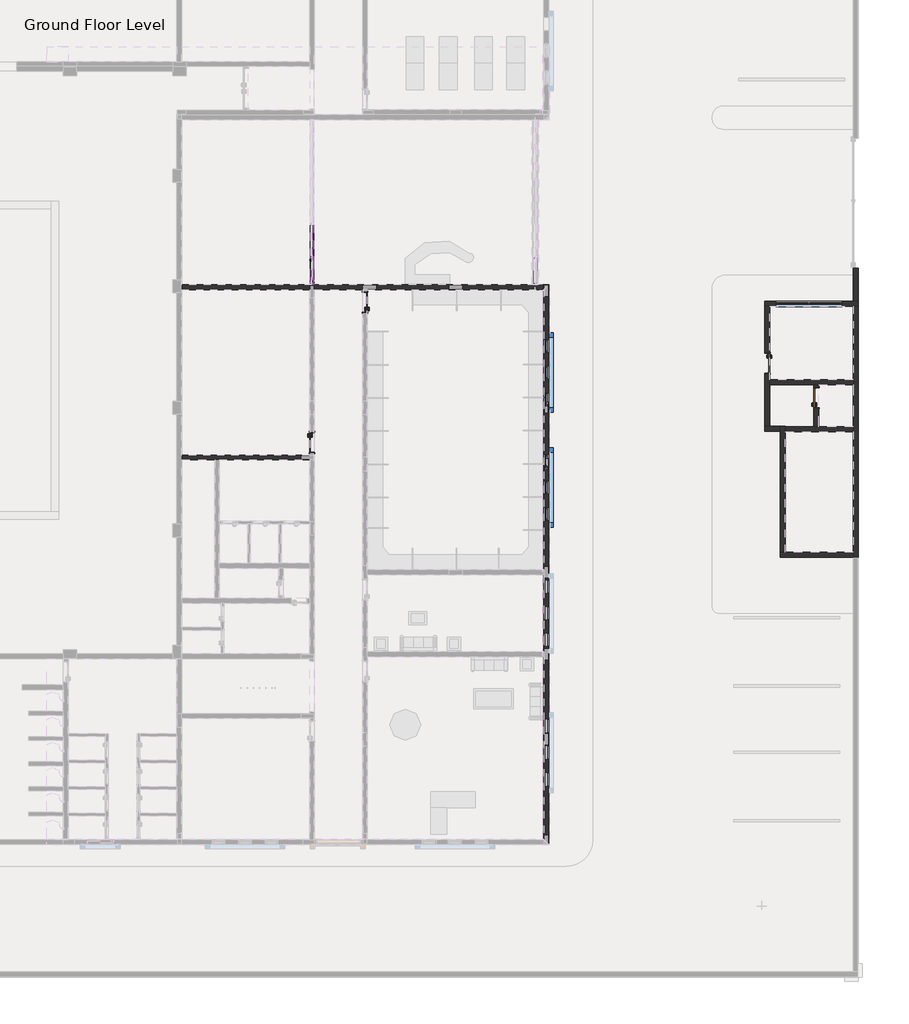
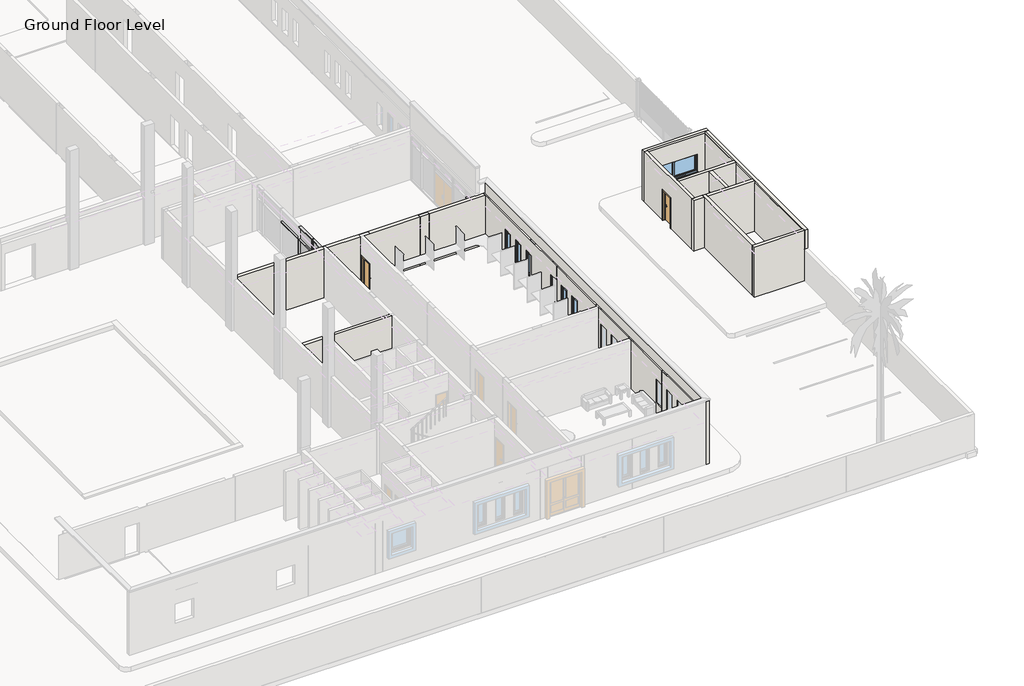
# One storey, part 5 of 23: 20 members, 13 walls, 9 windows, 6 doors, 4 plates.
"""IFC4 building model written with IfcOpenShell, lengths in millimetres."""

from ifc_helpers import new_model, si_unit, frame, origin, place, context, project, spatial, polyline, outline, extrude, faceted_brep, transform, mapped, element, save
from components import int_single_flush_nz_900_x_2100_2a598139, int_single_flush_nz_900_x_2100_021ef152, m_curtain_wall_sgl_glass_m_curtain_wall_sgl_glass_aad50b51, m_curtain_wall_sgl_glass_m_curtain_wall_sgl_glass_f4fa41e6, rectangular_mullion_50_x_150mm_79b53f25, rectangular_mullion_50_x_150mm_f0154c62, rectangular_mullion_50_x_150mm_3a148f0f, rectangular_mullion_50_x_150mm_5a145be0, rectangular_mullion_50_x_150mm_de483d99, rectangular_mullion_50_x_150mm_3a321350, rectangular_mullion_50_x_150mm_e54847f5, rectangular_mullion_50_x_150mm_792551fd, rectangular_mullion_50_x_150mm_23485ade, rectangular_mullion_50_x_150mm_35d6a770, rectangular_mullion_50_x_150mm_3ddb3363, rectangular_mullion_50_x_150mm_64d38db8, rectangular_mullion_50_x_150mm_641d0453, rectangular_mullion_50_x_150mm_e5f2d676, rectangular_mullion_50_x_150mm_4c046977, rectangular_mullion_50_x_150mm_5ce1b9ad, system_panel_glazed_c0405daf, system_panel_glazed_5c305629, system_panel_glazed_34c8777d, system_panel_glazed_a333d43b, awning_casement_double_w6_428bdf5d, window_batten_type_1_65f01d97, window_single_shutter_w3_b236610e

model = new_model("IFC4")

# Units and contexts
model_context = context("Model", 3, world=origin())
ifc_project = project(units=[si_unit("LENGTHUNIT", "METRE", prefix="MILLI")], contexts=[model_context])

# Site, building, storey
site = spatial("IfcSite", under=ifc_project)
building = spatial("IfcBuilding", under=site)
storey = spatial("IfcBuildingStorey", under=building, Name="Ground Floor Level", Elevation=900.0)

# Doors
placement = place(None, origin())
int_single_flush_nz_900_x_2100_shape = int_single_flush_nz_900_x_2100_2a598139(model_context)
element("IfcDoor", 1, ObjectType="Int Single-Flush (NZ) : 900 x 2100", at=placement, inside=storey, context=model_context, shape_type="MappedRepresentation", body=[
    mapped(int_single_flush_nz_900_x_2100_shape, transform((7752.7672395, -16758.7846466, 1000.0), x_axis=(0.0, 1.0, 0.0), y_axis=(-1.0, 0.0, 0.0), z_axis=(0.0, 0.0, 1.0))),
])
element("IfcDoor", 2, ObjectType="Int Single-Flush (NZ) : 900 x 2100", at=placement, inside=storey, context=model_context, shape_type="MappedRepresentation", body=[
    mapped(int_single_flush_nz_900_x_2100_shape, transform((5352.7672394, -23250.7846466, 1000.0), x_axis=(0.0, -1.0, 0.0), y_axis=(1.0, 0.0, 0.0), z_axis=(0.0, 0.0, 1.0))),
])
int_single_flush_nz_900_x_2100_2_shape = int_single_flush_nz_900_x_2100_021ef152(model_context)
element("IfcDoor", 3, ObjectType="Int Single-Flush (NZ) : 900 x 2100", at=placement, inside=storey, context=model_context, shape_type="MappedRepresentation", body=[
    mapped(int_single_flush_nz_900_x_2100_2_shape, transform((25952.7672395, -19670.7846454, 900.0), x_axis=(0.0, -1.0, 0.0), y_axis=(1.0, 0.0, 0.0), z_axis=(0.0, 0.0, 1.0))),
])
element("IfcDoor", 4, ObjectType="Int Single-Flush (NZ) : 900 x 2100", at=placement, inside=storey, context=model_context, shape_type="MappedRepresentation", body=[
    mapped(int_single_flush_nz_900_x_2100_2_shape, transform((28172.7672395, -21078.7846454, 900.0), x_axis=(0.0, 1.0, 0.0), y_axis=(-1.0, 0.0, 0.0), z_axis=(0.0, 0.0, 1.0))),
])
m_curtain_wall_sgl_glass_m_curtain_wall_sgl_glass_shape = m_curtain_wall_sgl_glass_m_curtain_wall_sgl_glass_aad50b51(model_context)
element("IfcDoor", 5, ObjectType="M_Curtain Wall Sgl Glass : M_Curtain Wall Sgl Glass", at=placement, inside=storey, context=model_context, shape_type="MappedRepresentation", body=[
    mapped(m_curtain_wall_sgl_glass_m_curtain_wall_sgl_glass_shape, transform((5352.7672395, -15919.7846466, 1050.0), x_axis=(0.0, -1.0, 0.0), y_axis=(1.0, 0.0, 0.0), z_axis=(0.0, 0.0, 1.0))),
])
m_curtain_wall_sgl_glass_m_curtain_wall_sgl_glass_2_shape = m_curtain_wall_sgl_glass_m_curtain_wall_sgl_glass_f4fa41e6(model_context)
element("IfcDoor", 6, ObjectType="M_Curtain Wall Sgl Glass : M_Curtain Wall Sgl Glass", at=placement, inside=storey, context=model_context, shape_type="MappedRepresentation", body=[
    mapped(m_curtain_wall_sgl_glass_m_curtain_wall_sgl_glass_2_shape, transform((5352.7672395, -15337.2846466, 1050.0), x_axis=(0.0, -1.0, 0.0), y_axis=(1.0, 0.0, 0.0), z_axis=(0.0, 0.0, 1.0))),
])

# Members
rectangular_mullion_50_x_150mm_shape = rectangular_mullion_50_x_150mm_79b53f25(model_context)
element("IfcMember", 7, ObjectType="Rectangular Mullion : 50 x 150mm", at=placement, inside=storey, context=model_context, shape_type="MappedRepresentation", body=[
    mapped(rectangular_mullion_50_x_150mm_shape, transform((5352.7672395, -14804.7846466, 1000.0), x_axis=(0.0, -1.0, 0.0), y_axis=(-1.0, 0.0, 0.0), z_axis=(0.0, 0.0, -1.0))),
])
element("IfcMember", 8, ObjectType="Rectangular Mullion : 50 x 150mm", at=placement, inside=storey, context=model_context, shape_type="MappedRepresentation", body=[
    mapped(rectangular_mullion_50_x_150mm_shape, transform((5352.7672395, -13304.7846466, 1000.0), x_axis=(0.0, -1.0, 0.0), y_axis=(-1.0, 0.0, 0.0), z_axis=(0.0, 0.0, -1.0))),
])
rectangular_mullion_50_x_150mm_2_shape = rectangular_mullion_50_x_150mm_f0154c62(model_context)
element("IfcMember", 9, ObjectType="Rectangular Mullion : 50 x 150mm", at=placement, inside=storey, context=model_context, shape_type="MappedRepresentation", body=[
    mapped(rectangular_mullion_50_x_150mm_2_shape, transform((5352.7672395, -14779.7846466, 3250.0), x_axis=(0.0, 0.0, 1.0), y_axis=(-1.0, 0.0, 0.0), z_axis=(0.0, -1.0, 0.0))),
])
rectangular_mullion_50_x_150mm_3_shape = rectangular_mullion_50_x_150mm_3a148f0f(model_context)
element("IfcMember", 10, ObjectType="Rectangular Mullion : 50 x 150mm", at=placement, inside=storey, context=model_context, shape_type="MappedRepresentation", body=[
    mapped(rectangular_mullion_50_x_150mm_3_shape, transform((5352.7672395, -13279.7846466, 3250.0), x_axis=(0.0, 0.0, 1.0), y_axis=(-1.0, 0.0, 0.0), z_axis=(0.0, -1.0, 0.0))),
])
rectangular_mullion_50_x_150mm_4_shape = rectangular_mullion_50_x_150mm_5a145be0(model_context)
element("IfcMember", 11, ObjectType="Rectangular Mullion : 50 x 150mm", at=placement, inside=storey, context=model_context, shape_type="MappedRepresentation", body=[
    mapped(rectangular_mullion_50_x_150mm_4_shape, transform((5352.7672395, -13329.7846466, 1000.0), x_axis=(0.0, 0.0, -1.0), y_axis=(-1.0, 0.0, 0.0), z_axis=(0.0, 1.0, 0.0))),
])
element("IfcMember", 12, ObjectType="Rectangular Mullion : 50 x 150mm", at=placement, inside=storey, context=model_context, shape_type="MappedRepresentation", body=[
    mapped(rectangular_mullion_50_x_150mm_4_shape, transform((5352.7672395, -14779.7846466, 4150.0), x_axis=(0.0, 0.0, 1.0), y_axis=(-1.0, 0.0, 0.0), z_axis=(0.0, -1.0, 0.0))),
])
rectangular_mullion_50_x_150mm_5_shape = rectangular_mullion_50_x_150mm_de483d99(model_context)
element("IfcMember", 13, ObjectType="Rectangular Mullion : 50 x 150mm", at=placement, inside=storey, context=model_context, shape_type="MappedRepresentation", body=[
    mapped(rectangular_mullion_50_x_150mm_5_shape, transform((5352.7672395, -16044.7846466, 1000.0), x_axis=(0.0, -1.0, 0.0), y_axis=(-1.0, 0.0, 0.0), z_axis=(0.0, 0.0, -1.0))),
])
rectangular_mullion_50_x_150mm_6_shape = rectangular_mullion_50_x_150mm_3a321350(model_context)
element("IfcMember", 14, ObjectType="Rectangular Mullion : 50 x 150mm", at=placement, inside=storey, context=model_context, shape_type="MappedRepresentation", body=[
    mapped(rectangular_mullion_50_x_150mm_6_shape, transform((15452.7672395, -16004.7846466, 4150.0), x_axis=(0.0, 0.0, 1.0), y_axis=(-1.0, 0.0, 0.0), z_axis=(0.0, -1.0, 0.0))),
])
rectangular_mullion_50_x_150mm_7_shape = rectangular_mullion_50_x_150mm_e54847f5(model_context)
element("IfcMember", 15, ObjectType="Rectangular Mullion : 50 x 150mm", at=placement, inside=storey, context=model_context, shape_type="MappedRepresentation", body=[
    mapped(rectangular_mullion_50_x_150mm_7_shape, transform((15452.7672395, -16004.7846466, 3550.0), x_axis=(0.0, 0.0, 1.0), y_axis=(-1.0, 0.0, 0.0), z_axis=(0.0, -1.0, 0.0))),
])
rectangular_mullion_50_x_150mm_8_shape = rectangular_mullion_50_x_150mm_792551fd(model_context)
element("IfcMember", 16, ObjectType="Rectangular Mullion : 50 x 150mm", at=placement, inside=storey, context=model_context, shape_type="MappedRepresentation", body=[
    mapped(rectangular_mullion_50_x_150mm_8_shape, transform((15452.7672395, -16054.7846466, 1000.0), x_axis=(0.0, -1.0, 0.0), y_axis=(-1.0, 0.0, 0.0), z_axis=(0.0, 0.0, -1.0))),
])
rectangular_mullion_50_x_150mm_9_shape = rectangular_mullion_50_x_150mm_23485ade(model_context)
element("IfcMember", 17, ObjectType="Rectangular Mullion : 50 x 150mm", at=placement, inside=storey, context=model_context, shape_type="MappedRepresentation", body=[
    mapped(rectangular_mullion_50_x_150mm_9_shape, transform((15452.7672395, -16054.7846466, 3200.0), x_axis=(0.0, -1.0, 0.0), y_axis=(-1.0, 0.0, 0.0), z_axis=(0.0, 0.0, -1.0))),
])
rectangular_mullion_50_x_150mm_10_shape = rectangular_mullion_50_x_150mm_35d6a770(model_context)
element("IfcMember", 18, ObjectType="Rectangular Mullion : 50 x 150mm", at=placement, inside=storey, context=model_context, shape_type="MappedRepresentation", body=[
    mapped(rectangular_mullion_50_x_150mm_10_shape, transform((5352.7672395, -16044.7846466, 3250.0), x_axis=(0.0, -1.0, 0.0), y_axis=(-1.0, 0.0, 0.0), z_axis=(0.0, 0.0, -1.0))),
])
rectangular_mullion_50_x_150mm_11_shape = rectangular_mullion_50_x_150mm_3ddb3363(model_context)
element("IfcMember", 19, ObjectType="Rectangular Mullion : 50 x 150mm", at=placement, inside=storey, context=model_context, shape_type="MappedRepresentation", body=[
    mapped(rectangular_mullion_50_x_150mm_11_shape, transform((5352.7672395, -14804.7846466, 3250.0), x_axis=(0.0, -1.0, 0.0), y_axis=(-1.0, 0.0, 0.0), z_axis=(0.0, 0.0, -1.0))),
])
rectangular_mullion_50_x_150mm_12_shape = rectangular_mullion_50_x_150mm_64d38db8(model_context)
element("IfcMember", 20, ObjectType="Rectangular Mullion : 50 x 150mm", at=placement, inside=storey, context=model_context, shape_type="MappedRepresentation", body=[
    mapped(rectangular_mullion_50_x_150mm_12_shape, transform((15452.7672395, -16054.7846466, 3550.0), x_axis=(0.0, -1.0, 0.0), y_axis=(-1.0, 0.0, 0.0), z_axis=(0.0, 0.0, -1.0))),
])
rectangular_mullion_50_x_150mm_13_shape = rectangular_mullion_50_x_150mm_641d0453(model_context)
element("IfcMember", 21, ObjectType="Rectangular Mullion : 50 x 150mm", at=placement, inside=storey, context=model_context, shape_type="MappedRepresentation", body=[
    mapped(rectangular_mullion_50_x_150mm_13_shape, transform((5352.7672395, -15844.7846466, 3250.0), x_axis=(0.0, 0.0, 1.0), y_axis=(-1.0, 0.0, 0.0), z_axis=(0.0, -1.0, 0.0))),
])
rectangular_mullion_50_x_150mm_14_shape = rectangular_mullion_50_x_150mm_e5f2d676(model_context)
element("IfcMember", 22, ObjectType="Rectangular Mullion : 50 x 150mm", at=placement, inside=storey, context=model_context, shape_type="MappedRepresentation", body=[
    mapped(rectangular_mullion_50_x_150mm_14_shape, transform((5352.7672395, -15994.7846466, 4150.0), x_axis=(0.0, 0.0, 1.0), y_axis=(-1.0, 0.0, 0.0), z_axis=(0.0, -1.0, 0.0))),
])
rectangular_mullion_50_x_150mm_15_shape = rectangular_mullion_50_x_150mm_4c046977(model_context)
element("IfcMember", 23, ObjectType="Rectangular Mullion : 50 x 150mm", at=placement, inside=storey, context=model_context, shape_type="MappedRepresentation", body=[
    mapped(rectangular_mullion_50_x_150mm_15_shape, transform((5352.7672395, -14829.7846466, 1000.0), x_axis=(0.0, 0.0, -1.0), y_axis=(-1.0, 0.0, 0.0), z_axis=(0.0, 1.0, 0.0))),
])
rectangular_mullion_50_x_150mm_16_shape = rectangular_mullion_50_x_150mm_5ce1b9ad(model_context)
element("IfcMember", 24, ObjectType="Rectangular Mullion : 50 x 150mm", at=placement, inside=storey, context=model_context, shape_type="MappedRepresentation", body=[
    mapped(rectangular_mullion_50_x_150mm_16_shape, transform((5352.7672395, -15994.7846466, 3250.0), x_axis=(0.0, 0.0, 1.0), y_axis=(-1.0, 0.0, 0.0), z_axis=(0.0, -1.0, 0.0))),
])
element("IfcMember", 25, ObjectType="Rectangular Mullion : 50 x 150mm", at=placement, inside=storey, context=model_context, shape_type="MappedRepresentation", body=[
    mapped(rectangular_mullion_50_x_150mm_15_shape, transform((5352.7672395, -15844.7846466, 4150.0), x_axis=(0.0, 0.0, 1.0), y_axis=(-1.0, 0.0, 0.0), z_axis=(0.0, -1.0, 0.0))),
])
element("IfcMember", 26, ObjectType="Rectangular Mullion : 50 x 150mm", at=placement, inside=storey, context=model_context, shape_type="MappedRepresentation", body=[
    mapped(rectangular_mullion_50_x_150mm_14_shape, transform((5352.7672395, -15844.7846466, 1000.0), x_axis=(0.0, 0.0, -1.0), y_axis=(-1.0, 0.0, 0.0), z_axis=(0.0, 1.0, 0.0))),
])

# Plates
system_panel_glazed_shape = system_panel_glazed_c0405daf(model_context)
element("IfcPlate", 27, ObjectType="System Panel : Glazed", at=placement, inside=storey, context=model_context, shape_type="MappedRepresentation", body=[
    mapped(system_panel_glazed_shape, transform((5352.7672395, -14054.7846466, 1050.0), x_axis=(0.0, -1.0, 0.0), y_axis=(1.0, 0.0, 0.0), z_axis=(0.0, 0.0, 1.0))),
])
system_panel_glazed_2_shape = system_panel_glazed_5c305629(model_context)
element("IfcPlate", 28, ObjectType="System Panel : Glazed", at=placement, inside=storey, context=model_context, shape_type="MappedRepresentation", body=[
    mapped(system_panel_glazed_2_shape, transform((5352.7672395, -14054.7846466, 3275.0), x_axis=(0.0, -1.0, 0.0), y_axis=(1.0, 0.0, 0.0), z_axis=(0.0, 0.0, 1.0))),
])
system_panel_glazed_3_shape = system_panel_glazed_34c8777d(model_context)
element("IfcPlate", 29, ObjectType="System Panel : Glazed", at=placement, inside=storey, context=model_context, shape_type="MappedRepresentation", body=[
    mapped(system_panel_glazed_3_shape, transform((5352.7672395, -15337.2846466, 3275.0), x_axis=(0.0, -1.0, 0.0), y_axis=(1.0, 0.0, 0.0), z_axis=(0.0, 0.0, 1.0))),
])
system_panel_glazed_4_shape = system_panel_glazed_a333d43b(model_context)
element("IfcPlate", 30, ObjectType="System Panel : Glazed", at=placement, inside=storey, context=model_context, shape_type="MappedRepresentation", body=[
    mapped(system_panel_glazed_4_shape, transform((5352.7672395, -15919.7846466, 3275.0), x_axis=(0.0, -1.0, 0.0), y_axis=(1.0, 0.0, 0.0), z_axis=(0.0, 0.0, 1.0))),
])

# Walls
element("IfcWall", 31, ObjectType="Exterior - Blockwork 200mm", at=placement, inside=storey, context=model_context, shape_type="Brep", body=[
    faceted_brep([(25842.7672395, -17014.7846454, 900.0), (26062.7672395, -17014.7846454, 900.0), (29842.7672395, -17014.7846454, 900.0), (30062.7672395, -17014.7846454, 900.0), (30062.7672395, -17014.7846454, 4400.0), (29852.7672395, -17014.7846454, 4400.0), (29852.7672395, -17014.7846454, 4270.0), (29842.7672395, -17014.7846454, 4270.0), (26062.7672395, -17014.7846454, 4270.0), (26052.7672395, -17014.7846454, 4270.0), (26052.7672395, -17014.7846454, 4400.0), (25842.7672395, -17014.7846454, 4400.0), (29342.7672395, -17014.7846454, 3000.0), (29342.7672395, -17014.7846454, 1800.0), (26342.7672395, -17014.7846454, 1800.0), (26342.7672395, -17014.7846454, 3000.0), (30062.7672395, -16794.7846454, 900.0), (25842.7672395, -16794.7846454, 900.0), (25842.7672395, -16794.7846454, 4400.0), (30062.7672395, -16794.7846454, 4400.0), (30062.7672395, -16794.7846454, 3100.0), (29342.7672395, -16794.7846454, 1800.0), (29342.7672395, -16794.7846454, 3000.0), (26342.7672395, -16794.7846454, 3000.0), (26342.7672395, -16794.7846454, 1800.0), (26052.7672395, -17004.7846454, 4400.0), (29852.7672395, -17004.7846454, 4400.0), (29852.7672395, -17004.7846454, 4270.0), (26052.7672395, -17004.7846454, 4270.0)], [[[0, 1, 2, 3, 4, 5, 6, 7, 8, 9, 10, 11], [12, 13, 14, 15]], [[16, 17, 18, 19, 20], [21, 22, 23, 24]], [[3, 2, 1, 0, 17, 16]], [[19, 18, 11, 10, 25, 26, 5, 4]], [[0, 11, 18, 17]], [[21, 13, 12, 22]], [[14, 24, 23, 15]], [[13, 21, 24, 14]], [[15, 23, 22, 12]], [[27, 28, 9, 8, 7, 6]], [[26, 27, 6, 5]], [[28, 25, 10, 9]], [[28, 27, 26, 25]], [[3, 16, 20, 19, 4]]]),
])
element("IfcWall", 32, ObjectType="Exterior - Blockwork 200mm", at=placement, inside=storey, context=model_context, shape_type="Brep", body=[
    faceted_brep([(30062.7672395, -28364.7846456, 900.0), (30062.7672395, -17014.7846454, 900.0), (30062.7672395, -17014.7846454, 4400.0), (30062.7672395, -28364.7846456, 4400.0), (29842.7672395, -17014.7846454, 900.0), (29842.7672395, -20344.7846454, 900.0), (29842.7672395, -20564.7846454, 900.0), (29842.7672395, -22464.7846454, 900.0), (29842.7672395, -22684.7846454, 900.0), (29842.7672395, -28144.7846456, 900.0), (29842.7672395, -28364.7846456, 900.0), (29842.7672395, -28364.7846456, 4400.0), (29842.7672395, -28154.7846456, 4400.0), (29842.7672395, -28154.7846456, 4270.0), (29842.7672395, -28144.7846456, 4270.0), (29842.7672395, -17014.7846454, 4270.0), (29852.7672395, -17014.7846454, 4400.0), (29852.7672395, -28154.7846456, 4400.0), (29852.7672395, -28154.7846456, 4270.0), (29852.7672395, -17014.7846454, 4270.0)], [[[0, 1, 2, 3]], [[4, 5, 6, 7, 8, 9, 10, 11, 12, 13, 14, 15]], [[1, 0, 10, 9, 8, 7, 6, 5, 4]], [[3, 2, 16, 17, 12, 11]], [[13, 18, 19, 15, 14]], [[18, 17, 16, 19]], [[17, 18, 13, 12]], [[3, 11, 10, 0]], [[1, 4, 15, 19, 16, 2]]]),
])
element("IfcWall", 33, ObjectType="Exterior - Blockwork 200mm", at=placement, inside=storey, context=model_context, shape_type="Brep", body=[
    faceted_brep([(29842.7672395, -28144.7846456, 900.0), (26762.7672394, -28144.7846456, 900.0), (26542.7672394, -28144.7846456, 900.0), (26542.7672394, -28144.7846456, 4400.0), (26752.7672394, -28144.7846456, 4400.0), (26752.7672394, -28144.7846456, 4270.0), (29842.7672395, -28144.7846456, 4270.0), (26542.7672394, -28364.7846456, 900.0), (29842.7672395, -28364.7846456, 900.0), (29842.7672395, -28364.7846456, 4400.0), (26542.7672394, -28364.7846456, 4400.0), (29842.7672395, -28154.7846456, 4400.0), (26752.7672394, -28154.7846456, 4400.0), (26752.7672394, -28154.7846456, 4270.0), (29842.7672395, -28154.7846456, 4270.0)], [[[0, 1, 2, 3, 4, 5, 6]], [[7, 8, 9, 10]], [[2, 1, 0, 8, 7]], [[10, 9, 11, 12, 4, 3]], [[3, 2, 7, 10]], [[5, 13, 14, 6]], [[13, 12, 11, 14]], [[12, 13, 5, 4]], [[8, 0, 6, 14, 11, 9]]]),
])
element("IfcWall", 34, ObjectType="Exterior - Blockwork 200mm", at=placement, inside=storey, context=model_context, shape_type="Brep", body=[
    faceted_brep([(26762.7672394, -28144.7846456, 900.0), (26762.7672394, -22684.7846454, 900.0), (26762.7672394, -22464.7846454, 900.0), (26762.7672394, -22444.7846454, 900.0), (26762.7672394, -22444.7846454, 4270.0), (26762.7672394, -28144.7846456, 4270.0), (26542.7672394, -22444.7846454, 900.0), (26542.7672394, -22664.7846454, 900.0), (26542.7672394, -28144.7846456, 900.0), (26542.7672394, -28144.7846456, 4400.0), (26542.7672394, -22664.7846454, 4400.0), (26542.7672394, -22454.7846454, 4400.0), (26542.7672394, -22454.7846454, 4270.0), (26542.7672394, -22444.7846454, 4270.0), (26752.7672394, -28144.7846456, 4400.0), (26752.7672394, -22454.7846454, 4400.0), (26752.7672394, -28144.7846456, 4270.0), (26752.7672394, -22454.7846454, 4270.0)], [[[0, 1, 2, 3, 4, 5]], [[6, 7, 8, 9, 10, 11, 12, 13]], [[3, 2, 1, 0, 8, 7, 6]], [[11, 10, 9, 14, 15]], [[9, 8, 0, 5, 16, 14]], [[3, 6, 13, 4]], [[12, 17, 16, 5, 4, 13]], [[17, 15, 14, 16]], [[15, 17, 12, 11]]]),
])
element("IfcWall", 35, ObjectType="Exterior - Blockwork 200mm", at=placement, inside=storey, context=model_context, shape_type="Brep", body=[
    faceted_brep([(26542.7672394, -22444.7846454, 900.0), (26062.7672395, -22444.7846454, 900.0), (25842.7672395, -22444.7846454, 900.0), (25842.7672395, -22444.7846454, 4400.0), (26052.7672395, -22444.7846454, 4400.0), (26052.7672395, -22444.7846454, 4270.0), (26062.7672395, -22444.7846454, 4270.0), (26542.7672394, -22444.7846454, 4270.0), (25842.7672395, -22664.7846454, 900.0), (26542.7672394, -22664.7846454, 900.0), (26542.7672394, -22664.7846454, 4400.0), (25842.7672395, -22664.7846454, 4400.0), (26542.7672394, -22454.7846454, 4400.0), (26052.7672395, -22454.7846454, 4400.0), (26542.7672394, -22454.7846454, 4270.0), (26052.7672395, -22454.7846454, 4270.0)], [[[0, 1, 2, 3, 4, 5, 6, 7]], [[8, 9, 10, 11]], [[2, 1, 0, 9, 8]], [[11, 10, 12, 13, 4, 3]], [[10, 9, 0, 7, 14, 12]], [[3, 2, 8, 11]], [[5, 15, 14, 7, 6]], [[15, 13, 12, 14]], [[13, 15, 5, 4]]]),
])
element("IfcWall", 36, ObjectType="Exterior - Blockwork 200mm", at=placement, inside=storey, context=model_context, shape_type="Brep", body=[
    faceted_brep([(26062.7672395, -22444.7846454, 900.0), (26062.7672395, -20564.7846454, 900.0), (26062.7672395, -20344.7846454, 900.0), (26062.7672395, -20064.7846454, 900.0), (26062.7672395, -20064.7846454, 3019.0), (26062.7672395, -19126.7846454, 3019.0), (26062.7672395, -19126.7846454, 900.0), (26062.7672395, -17014.7846454, 900.0), (26062.7672395, -17014.7846454, 4270.0), (26062.7672395, -22444.7846454, 4270.0), (25842.7672395, -22444.7846454, 4400.0), (25842.7672395, -17014.7846454, 4400.0), (25842.7672395, -17014.7846454, 900.0), (25842.7672395, -19126.7846454, 900.0), (25842.7672395, -19126.7846454, 3019.0), (25842.7672395, -20064.7846454, 3019.0), (25842.7672395, -20064.7846454, 900.0), (25842.7672395, -22444.7846454, 900.0), (26052.7672395, -22444.7846454, 4400.0), (26052.7672395, -17014.7846454, 4400.0), (26052.7672395, -17014.7846454, 4270.0), (26052.7672395, -22444.7846454, 4270.0)], [[[0, 1, 2, 3, 4, 5, 6, 7, 8, 9]], [[10, 11, 12, 13, 14, 15, 16, 17]], [[0, 17, 16, 3, 2, 1]], [[12, 7, 6, 13]], [[11, 10, 18, 19]], [[7, 12, 11, 19, 20, 8]], [[10, 17, 0, 9, 21, 18]], [[20, 21, 9, 8]], [[21, 20, 19, 18]], [[15, 4, 3, 16]], [[4, 15, 14, 5]], [[5, 14, 13, 6]]]),
])
element("IfcWall", 37, ObjectType="Exterior - Blockwork 200mm", at=placement, inside=storey, context=model_context, shape_type="Brep", body=[
    faceted_brep([(15843.0482736, -41364.7846466, 5302.8002678), (15843.0482736, -41144.7846466, 5302.8002678), (15843.0482736, -16264.7846466, 5302.8002678), (15843.0482736, -16264.7846466, 4550.0), (15843.0482736, -41144.7846466, 4550.0), (15843.0482736, -41354.7846466, 4550.0), (15843.0482736, -41354.7846466, 4400.0), (15843.0482736, -41144.7846466, 4400.0), (15843.0482736, -32864.7846466, 4400.0), (15843.0482736, -32644.7846466, 4400.0), (15843.0482736, -29164.7846466, 4400.0), (15843.0482736, -28944.7846466, 4400.0), (15843.0482736, -16264.7846466, 4400.0), (15843.0482736, -16044.7846466, 4400.0), (15843.0482736, -16044.7846466, 900.0), (15843.0482736, -16254.7846466, 900.0), (15843.0482736, -16254.7846466, 1000.0), (15843.0482736, -16264.7846466, 1000.0), (15843.0482736, -28944.7846466, 1000.0), (15843.0482736, -28954.7846466, 1000.0), (15843.0482736, -28954.7846466, 900.0), (15843.0482736, -29154.7846466, 900.0), (15843.0482736, -29154.7846466, 1000.0), (15843.0482736, -29164.7846466, 1000.0), (15843.0482736, -32644.7846466, 1000.0), (15843.0482736, -32654.7846466, 1000.0), (15843.0482736, -32654.7846466, 900.0), (15843.0482736, -32854.7846466, 900.0), (15843.0482736, -32854.7846466, 1000.0), (15843.0482736, -32864.7846466, 1000.0), (15843.0482736, -41144.7846466, 1000.0), (15843.0482736, -41154.7846466, 1000.0), (15843.0482736, -41154.7846466, 900.0), (15843.0482736, -41364.7846466, 900.0), (15843.0482736, -18515.3475065, 1800.0), (15843.0482736, -18515.3475065, 3400.0), (15843.0482736, -19115.3475065, 3400.0), (15843.0482736, -19115.3475065, 1800.0), (15843.0482736, -19715.3475065, 1800.0), (15843.0482736, -19715.3475065, 3400.0), (15843.0482736, -20315.3475065, 3400.0), (15843.0482736, -20315.3475065, 1800.0), (15843.0482736, -20915.3475065, 1800.0), (15843.0482736, -20915.3475065, 3400.0), (15843.0482736, -21515.3475065, 3400.0), (15843.0482736, -21515.3475065, 1800.0), (15843.0482736, -23714.2217868, 1800.0), (15843.0482736, -23714.2217868, 3400.0), (15843.0482736, -24314.2217868, 3400.0), (15843.0482736, -24314.2217868, 1800.0), (15843.0482736, -24914.2217867, 1800.0), (15843.0482736, -24914.2217867, 3400.0), (15843.0482736, -25514.2217867, 3400.0), (15843.0482736, -25514.2217867, 1800.0), (15843.0482736, -26114.2217867, 1800.0), (15843.0482736, -26114.2217867, 3400.0), (15843.0482736, -26714.2217867, 3400.0), (15843.0482736, -26714.2217867, 1800.0), (15843.0482736, -29404.7846466, 1800.0), (15843.0482736, -29404.7846466, 3400.0), (15843.0482736, -30004.7846466, 3400.0), (15843.0482736, -30004.7846466, 1800.0), (15843.0482736, -30604.7846466, 1800.0), (15843.0482736, -30604.7846466, 3400.0), (15843.0482736, -31204.7846466, 3400.0), (15843.0482736, -31204.7846466, 1800.0), (15843.0482736, -31804.7846466, 1800.0), (15843.0482736, -31804.7846466, 3400.0), (15843.0482736, -32404.7846466, 3400.0), (15843.0482736, -32404.7846466, 1800.0), (15843.0482736, -35704.7846466, 1800.0), (15843.0482736, -35704.7846466, 3400.0), (15843.0482736, -36304.7846466, 3400.0), (15843.0482736, -36304.7846466, 1800.0), (15843.0482736, -36904.7846466, 1800.0), (15843.0482736, -36904.7846466, 3400.0), (15843.0482736, -37504.7846466, 3400.0), (15843.0482736, -37504.7846466, 1800.0), (15843.0482736, -38124.7846466, 1800.0), (15843.0482736, -38124.7846466, 3400.0), (15843.0482736, -38724.7846466, 3400.0), (15843.0482736, -38724.7846466, 1800.0), (16063.0482736, -41364.7846466, 900.0), (16063.0482736, -16044.7846466, 900.0), (16063.0482736, -16044.7846466, 4400.0), (16063.0482736, -16264.7846466, 4400.0), (16063.0482736, -16264.7846466, 5302.8002678), (16063.0482736, -41364.7846466, 5302.8002678), (16063.0482736, -18515.3475065, 3400.0), (16063.0482736, -18515.3475065, 1800.0), (16063.0482736, -19115.3475065, 1800.0), (16063.0482736, -19115.3475065, 3400.0), (16063.0482736, -19715.3475065, 3400.0), (16063.0482736, -19715.3475065, 1800.0), (16063.0482736, -20315.3475065, 1800.0), (16063.0482736, -20315.3475065, 3400.0), (16063.0482736, -20915.3475065, 3400.0), (16063.0482736, -20915.3475065, 1800.0), (16063.0482736, -21515.3475065, 1800.0), (16063.0482736, -21515.3475065, 3400.0), (16063.0482736, -23714.2217868, 3400.0), (16063.0482736, -23714.2217868, 1800.0), (16063.0482736, -24314.2217868, 1800.0), (16063.0482736, -24314.2217868, 3400.0), (16063.0482736, -24914.2217867, 3400.0), (16063.0482736, -24914.2217867, 1800.0), (16063.0482736, -25514.2217867, 1800.0), (16063.0482736, -25514.2217867, 3400.0), (16063.0482736, -26114.2217867, 3400.0), (16063.0482736, -26114.2217867, 1800.0), (16063.0482736, -26714.2217867, 1800.0), (16063.0482736, -26714.2217867, 3400.0), (16063.0482736, -29404.7846466, 3400.0), (16063.0482736, -29404.7846466, 1800.0), (16063.0482736, -30004.7846466, 1800.0), (16063.0482736, -30004.7846466, 3400.0), (16063.0482736, -30604.7846466, 3400.0), (16063.0482736, -30604.7846466, 1800.0), (16063.0482736, -31204.7846466, 1800.0), (16063.0482736, -31204.7846466, 3400.0), (16063.0482736, -31804.7846466, 3400.0), (16063.0482736, -31804.7846466, 1800.0), (16063.0482736, -32404.7846466, 1800.0), (16063.0482736, -32404.7846466, 3400.0), (16063.0482736, -35704.7846466, 3400.0), (16063.0482736, -35704.7846466, 1800.0), (16063.0482736, -36304.7846466, 1800.0), (16063.0482736, -36304.7846466, 3400.0), (16063.0482736, -36904.7846466, 3400.0), (16063.0482736, -36904.7846466, 1800.0), (16063.0482736, -37504.7846466, 1800.0), (16063.0482736, -37504.7846466, 3400.0), (16063.0482736, -38124.7846466, 3400.0), (16063.0482736, -38124.7846466, 1800.0), (16063.0482736, -38724.7846466, 1800.0), (16063.0482736, -38724.7846466, 3400.0), (16052.7672395, -16554.7846466, 4400.0), (16052.7672395, -16554.7846466, 900.0), (15853.0482736, -16554.7846466, 900.0), (15853.0482736, -16554.7846466, 1000.0), (15852.7672395, -16554.7846466, 1000.0), (15852.7672395, -16554.7846466, 4400.0), (15852.7672395, -16054.7846466, 900.0), (15852.7672395, -16054.7846466, 4400.0), (15852.7672395, -16254.7846466, 1000.0), (15852.7672395, -16254.7846466, 900.0), (16052.7672395, -21854.7846466, 4400.0), (16052.7672395, -21854.7846466, 900.0), (15853.0482736, -21854.7846466, 900.0), (15853.0482736, -21854.7846466, 1000.0), (15852.7672395, -21854.7846466, 1000.0), (15852.7672395, -21854.7846466, 4400.0), (15852.7672395, -21354.7846466, 3400.0), (15852.7672395, -21354.7846466, 4400.0), (15852.7672395, -21354.7846466, 1000.0), (15852.7672395, -21354.7846466, 1800.0), (15852.7672395, -21515.3475065, 1800.0), (15852.7672395, -21515.3475065, 3400.0), (16052.7672395, -21354.7846466, 3400.0), (16052.7672395, -21354.7846466, 4400.0), (16052.7672395, -21354.7846466, 1800.0), (15853.0482736, -21354.7846466, 1000.0), (15853.0482736, -21354.7846466, 900.0), (16052.7672395, -21354.7846466, 900.0), (16052.7672395, -24404.2217867, 4400.0), (16052.7672395, -24404.2217867, 900.0), (15853.0482736, -24404.2217867, 900.0), (15853.0482736, -24404.2217867, 1000.0), (15852.7672395, -24404.2217867, 1000.0), (15852.7672395, -24404.2217867, 4400.0), (15852.7672395, -23904.2217867, 3400.0), (15852.7672395, -23904.2217867, 4400.0), (15852.7672395, -23904.2217867, 1000.0), (15852.7672395, -23904.2217867, 1800.0), (15852.7672395, -24314.2217868, 1800.0), (15852.7672395, -24314.2217868, 3400.0), (16052.7672395, -23904.2217867, 3400.0), (16052.7672395, -23904.2217867, 4400.0), (16052.7672395, -23904.2217867, 1800.0), (15853.0482736, -23904.2217867, 1000.0), (15853.0482736, -23904.2217867, 900.0), (16052.7672395, -23904.2217867, 900.0), (16052.7672395, -29304.7846466, 4400.0), (16052.7672395, -29304.7846466, 900.0), (15853.0482736, -29304.7846466, 900.0), (15853.0482736, -29304.7846466, 1000.0), (15852.7672395, -29304.7846466, 1000.0), (15852.7672395, -29304.7846466, 4400.0), (15852.7672395, -28804.7846466, 4400.0), (15852.7672395, -29154.7846466, 1000.0), (15852.7672395, -29154.7846466, 900.0), (15852.7672395, -28954.7846466, 900.0), (15852.7672395, -28954.7846466, 1000.0), (15852.7672395, -28804.7846466, 1000.0), (16052.7672395, -28804.7846466, 900.0), (16052.7672395, -28804.7846466, 4400.0), (15853.0482736, -28804.7846466, 1000.0), (15853.0482736, -28804.7846466, 900.0), (16052.7672395, -33004.7846466, 4400.0), (16052.7672395, -33004.7846466, 900.0), (15853.0482736, -33004.7846466, 900.0), (15853.0482736, -33004.7846466, 1000.0), (15852.7672395, -33004.7846466, 1000.0), (15852.7672395, -33004.7846466, 4400.0), (15852.7672395, -32504.7846466, 4400.0), (15852.7672395, -32854.7846466, 1000.0), (15852.7672395, -32854.7846466, 900.0), (15852.7672395, -32654.7846466, 900.0), (15852.7672395, -32654.7846466, 1000.0), (15852.7672395, -32504.7846466, 1000.0), (16052.7672395, -32504.7846466, 900.0), (16052.7672395, -32504.7846466, 4400.0), (15853.0482736, -32504.7846466, 1000.0), (15853.0482736, -32504.7846466, 900.0), (16052.7672395, -36854.7846466, 4400.0), (16052.7672395, -36854.7846466, 900.0), (15853.0482736, -36854.7846466, 900.0), (15853.0482736, -36854.7846466, 1000.0), (15852.7672395, -36854.7846466, 1000.0), (15852.7672395, -36854.7846466, 4400.0), (15852.7672395, -36354.7846466, 4400.0), (15852.7672395, -36354.7846466, 1000.0), (16052.7672395, -36354.7846466, 900.0), (16052.7672395, -36354.7846466, 4400.0), (15853.0482736, -36354.7846466, 1000.0), (15853.0482736, -36354.7846466, 900.0), (15852.7672395, -41354.7846466, 4400.0), (15852.7672395, -41354.7846466, 900.0), (15852.7672395, -41154.7846466, 900.0), (15852.7672395, -41154.7846466, 1000.0), (15852.7672395, -40954.7846466, 1000.0), (15852.7672395, -40954.7846466, 4400.0), (16052.7672395, -40954.7846466, 900.0), (16052.7672395, -40954.7846466, 4400.0), (15853.0482736, -40954.7846466, 1000.0), (15853.0482736, -40954.7846466, 900.0), (16052.7672395, -16054.7846466, 4400.0), (16052.7672395, -16054.7846466, 900.0), (16052.7672395, -21515.3475065, 3400.0), (16052.7672395, -21515.3475065, 1800.0), (16052.7672395, -24314.2217868, 3400.0), (16052.7672395, -24314.2217868, 1800.0), (16052.7672395, -41354.7846466, 900.0), (16052.7672395, -41354.7846466, 4400.0), (16053.0482736, -41354.7846466, 4550.0), (16053.0482736, -41354.7846466, 4400.0), (16053.0482736, -16264.7846466, 4550.0), (16053.0482736, -16264.7846466, 4400.0)], [[[0, 1, 2, 3, 4, 5, 6, 7, 8, 9, 10, 11, 12, 13, 14, 15, 16, 17, 18, 19, 20, 21, 22, 23, 24, 25, 26, 27, 28, 29, 30, 31, 32, 33], [34, 35, 36, 37], [38, 39, 40, 41], [42, 43, 44, 45], [46, 47, 48, 49], [50, 51, 52, 53], [54, 55, 56, 57], [58, 59, 60, 61], [62, 63, 64, 65], [66, 67, 68, 69], [70, 71, 72, 73], [74, 75, 76, 77], [78, 79, 80, 81]], [[82, 83, 84, 85, 86, 87], [88, 89, 90, 91], [92, 93, 94, 95], [96, 97, 98, 99], [100, 101, 102, 103], [104, 105, 106, 107], [108, 109, 110, 111], [112, 113, 114, 115], [116, 117, 118, 119], [120, 121, 122, 123], [124, 125, 126, 127], [128, 129, 130, 131], [132, 133, 134, 135]], [[0, 33, 82, 87]], [[136, 137, 138, 139, 140, 141]], [[142, 143, 141, 140, 144, 145]], [[146, 147, 148, 149, 150, 151]], [[152, 153, 151, 150, 154, 155, 156, 157]], [[153, 152, 158, 159]], [[160, 155, 154, 161, 162, 163]], [[164, 165, 166, 167, 168, 169]], [[170, 171, 169, 168, 172, 173, 174, 175]], [[171, 170, 176, 177]], [[178, 173, 172, 179, 180, 181]], [[182, 183, 184, 185, 186, 187]], [[188, 187, 186, 189, 190, 191, 192, 193]], [[194, 195, 188, 193, 196, 197]], [[198, 199, 200, 201, 202, 203]], [[204, 203, 202, 205, 206, 207, 208, 209]], [[210, 211, 204, 209, 212, 213]], [[214, 215, 216, 217, 218, 219]], [[220, 219, 218, 221]], [[222, 223, 220, 221, 224, 225]], [[226, 227, 228, 229, 230, 231]], [[232, 233, 231, 230, 234, 235]], [[137, 136, 236, 237]], [[159, 158, 238, 239, 160, 163, 147, 146]], [[177, 176, 240, 241, 178, 181, 165, 164]], [[195, 194, 183, 182]], [[211, 210, 199, 198]], [[223, 222, 215, 214]], [[233, 232, 242, 243]], [[243, 242, 227, 226, 6, 5, 244, 245]], [[35, 34, 89, 88]], [[36, 35, 88, 91]], [[37, 36, 91, 90]], [[34, 37, 90, 89]], [[39, 38, 93, 92]], [[40, 39, 92, 95]], [[41, 40, 95, 94]], [[38, 41, 94, 93]], [[43, 42, 97, 96]], [[44, 43, 96, 99, 238, 158, 152, 157]], [[45, 44, 157, 156]], [[99, 98, 239, 238]], [[42, 45, 156, 155, 160, 239, 98, 97]], [[47, 46, 101, 100]], [[48, 47, 100, 103, 240, 176, 170, 175]], [[49, 48, 175, 174]], [[103, 102, 241, 240]], [[46, 49, 174, 173, 178, 241, 102, 101]], [[51, 50, 105, 104]], [[52, 51, 104, 107]], [[53, 52, 107, 106]], [[50, 53, 106, 105]], [[55, 54, 109, 108]], [[56, 55, 108, 111]], [[57, 56, 111, 110]], [[54, 57, 110, 109]], [[59, 58, 113, 112]], [[60, 59, 112, 115]], [[61, 60, 115, 114]], [[58, 61, 114, 113]], [[63, 62, 117, 116]], [[64, 63, 116, 119]], [[65, 64, 119, 118]], [[62, 65, 118, 117]], [[67, 66, 121, 120]], [[68, 67, 120, 123]], [[69, 68, 123, 122]], [[66, 69, 122, 121]], [[71, 70, 125, 124]], [[72, 71, 124, 127]], [[73, 72, 127, 126]], [[70, 73, 126, 125]], [[75, 74, 129, 128]], [[76, 75, 128, 131]], [[77, 76, 131, 130]], [[74, 77, 130, 129]], [[79, 78, 133, 132]], [[80, 79, 132, 135]], [[81, 80, 135, 134]], [[78, 81, 134, 133]], [[244, 5, 4, 3, 246]], [[245, 244, 246, 247]], [[14, 13, 84, 83]], [[86, 85, 247, 246, 3, 2]], [[143, 142, 237, 236]], [[201, 224, 221, 218, 217, 234, 230, 229, 31, 30, 29, 28, 205, 202]], [[224, 201, 200, 225]], [[234, 217, 216, 235]], [[31, 229, 228, 32]], [[205, 28, 27, 206]], [[185, 212, 209, 208, 25, 24, 23, 22, 189, 186]], [[212, 185, 184, 213]], [[25, 208, 207, 26]], [[189, 22, 21, 190]], [[139, 161, 154, 150, 149, 179, 172, 168, 167, 196, 193, 192, 19, 18, 17, 16, 144, 140]], [[161, 139, 138, 162]], [[179, 149, 148, 180]], [[196, 167, 166, 197]], [[19, 192, 191, 20]], [[144, 16, 15, 145]], [[83, 82, 33, 32, 228, 227, 242, 232, 235, 216, 215, 222, 225, 200, 199, 210, 213, 184, 183, 194, 197, 166, 165, 181, 180, 148, 147, 163, 162, 138, 137, 237, 142, 145, 15, 14]], [[27, 26, 207, 206]], [[190, 21, 20, 191]], [[2, 1, 0, 87, 86]], [[243, 245, 247, 85, 84, 13, 12, 11, 10, 9, 8, 7, 6, 226, 231, 233], [136, 141, 143, 236], [146, 151, 153, 159], [164, 169, 171, 177], [182, 187, 188, 195], [198, 203, 204, 211], [214, 219, 220, 223]]]),
])
element("IfcWall", 38, ObjectType="Exterior - Blockwork 200mm", at=placement, inside=storey, context=model_context, shape_type="Brep", body=[
    faceted_brep([(30062.7672395, -16794.7846454, 600.0), (30062.7672395, -15294.7846454, 600.0), (30062.7672395, -15294.7846454, 3100.0), (30062.7672395, -16794.7846454, 3100.0), (30062.7672395, -16794.7846454, 900.0), (29842.7672395, -16794.7846454, 600.0), (29842.7672395, -16794.7846454, 3100.0), (29842.7672395, -15294.7846454, 3100.0), (29842.7672395, -15294.7846454, 600.0)], [[[0, 1, 2, 3, 4]], [[5, 6, 7, 8]], [[1, 0, 5, 8]], [[2, 1, 8, 7]], [[3, 2, 7, 6]], [[0, 4, 3, 6, 5]]]),
])
element("IfcWall", 39, ObjectType="Interior - Blockwork 200", at=placement, inside=storey, context=model_context, shape_type="Brep", body=[
    faceted_brep([(-537.2327605, -23964.7846466, 4400.0), (-537.2327605, -23964.7846466, 900.0), (942.7672395, -23964.7846466, 900.0), (1152.7672395, -23964.7846466, 900.0), (1152.7672395, -23964.7846466, 1000.0), (1162.7672395, -23964.7846466, 1000.0), (5242.7672394, -23964.7846466, 1000.0), (5242.7672394, -23964.7846466, 4400.0), (1162.7672395, -23964.7846466, 4400.0), (942.7672395, -23964.7846466, 4400.0), (-537.2327605, -23744.7846466, 4400.0), (5242.7672394, -23744.7846466, 4400.0), (5242.7672394, -23744.7846466, 1000.0), (-537.2327605, -23744.7846466, 1000.0), (4852.7672395, -23754.7846466, 900.0), (4852.7672395, -23954.7846466, 900.0), (1152.7672395, -23954.7846466, 900.0), (-537.2327605, -23754.7846466, 900.0), (5242.7672394, -23954.7846466, 4400.0), (5242.7672394, -23954.7846466, 1000.0), (5242.7672394, -23754.7846466, 4400.0), (5242.7672394, -23754.7846466, 1000.0), (-537.2327605, -23754.7846466, 1000.0), (4852.7672395, -23754.7846466, 4400.0), (4852.7672395, -23754.7846466, 1000.0), (4852.7672395, -23954.7846466, 4400.0), (4852.7672395, -23954.7846466, 1000.0), (1152.7672395, -23954.7846466, 1000.0)], [[[0, 1, 2, 3, 4, 5, 6, 7, 8, 9]], [[10, 11, 12, 13]], [[14, 15, 16, 3, 2, 1, 17]], [[18, 7, 6, 19]], [[11, 20, 21, 12]], [[1, 0, 10, 13, 22, 17]], [[20, 23, 24, 21]], [[25, 18, 19, 26]], [[15, 14, 24, 23, 25, 26]], [[0, 9, 8, 7, 18, 25, 23, 20, 11, 10]], [[24, 22, 13, 12, 21]], [[22, 24, 14, 17]], [[27, 26, 19, 6, 5, 4]], [[16, 27, 4, 3]], [[27, 16, 15, 26]]]),
])
element("IfcWall", 40, ObjectType="Interior - Blockwork 200", at=placement, inside=storey, context=model_context, shape_type="Brep", body=[
    faceted_brep([(15843.0482736, -16264.7846466, 4400.0), (15452.7672395, -16264.7846466, 4400.0), (7862.7672395, -16264.7846466, 4400.0), (7642.7672395, -16264.7846466, 4400.0), (5462.7672394, -16264.7846466, 4400.0), (5452.7672395, -16264.7846466, 4400.0), (5452.7672395, -16264.7846466, 1000.0), (5462.7672394, -16264.7846466, 1000.0), (7642.7672395, -16264.7846466, 1000.0), (7652.7672395, -16264.7846466, 1000.0), (7652.7672395, -16264.7846466, 900.0), (7852.7672395, -16264.7846466, 900.0), (7852.7672395, -16264.7846466, 1000.0), (7862.7672395, -16264.7846466, 1000.0), (15843.0482736, -16264.7846466, 1000.0), (5252.7672395, -16264.7846466, 4400.0), (5242.7672394, -16264.7846466, 4400.0), (-537.2327605, -16264.7846466, 4400.0), (-537.2327605, -16264.7846466, 1000.0), (5242.7672394, -16264.7846466, 1000.0), (5252.7672395, -16264.7846466, 1000.0), (-537.2327605, -16044.7846466, 4400.0), (15342.7672395, -16044.7846466, 4400.0), (15552.7672395, -16044.7846466, 4400.0), (15843.0482736, -16044.7846466, 4400.0), (15843.0482736, -16044.7846466, 900.0), (15562.7672395, -16044.7846466, 900.0), (15452.7672395, -16044.7846466, 900.0), (15452.7672395, -16044.7846466, 1000.0), (-537.2327605, -16044.7846466, 1000.0), (12152.7672395, -16254.7846466, 900.0), (12152.7672395, -16054.7846466, 900.0), (15452.7672395, -16054.7846466, 900.0), (15843.0482736, -16254.7846466, 900.0), (11552.7672395, -16054.7846466, 900.0), (11552.7672395, -16254.7846466, 900.0), (8252.7672395, -16254.7846466, 900.0), (8252.7672395, -16054.7846466, 900.0), (7652.7672395, -16054.7846466, 900.0), (7652.7672395, -16254.7846466, 900.0), (5452.7672395, -16254.7846466, 900.0), (5452.7672395, -16054.7846466, 900.0), (7852.7672395, -16254.7846466, 900.0), (5252.7672395, -16054.7846466, 900.0), (5252.7672395, -16254.7846466, 900.0), (-537.2327605, -16254.7846466, 900.0), (-537.2327605, -16054.7846466, 900.0), (5252.7672395, -16054.7846466, 4400.0), (5452.7672395, -16054.7846466, 4400.0), (11552.7672395, -16054.7846466, 4400.0), (12152.7672395, -16054.7846466, 4400.0), (12152.7672395, -16254.7846466, 4400.0), (11552.7672395, -16254.7846466, 4400.0), (7652.7672395, -16054.7846466, 4400.0), (8252.7672395, -16054.7846466, 4400.0), (8252.7672395, -16254.7846466, 4400.0), (7652.7672395, -16254.7846466, 4400.0), (-537.2327605, -16054.7846466, 1000.0), (-537.2327605, -16254.7846466, 1000.0), (11552.7672395, -16054.7846466, 1000.0), (12152.7672395, -16054.7846466, 1000.0), (12152.7672395, -16254.7846466, 1000.0), (11552.7672395, -16254.7846466, 1000.0), (7652.7672395, -16054.7846466, 1000.0), (8252.7672395, -16054.7846466, 1000.0), (8252.7672395, -16254.7846466, 1000.0), (7652.7672395, -16254.7846466, 1000.0), (7852.7672395, -16254.7846466, 1000.0), (5452.7672395, -16254.7846466, 1000.0), (5452.7672395, -16054.7846466, 1000.0), (5252.7672395, -16054.7846466, 1000.0), (5252.7672395, -16254.7846466, 1000.0), (15843.0482736, -16254.7846466, 1000.0), (7652.7672395, -16254.7846466, 1000.0), (15452.7672395, -16054.7846466, 1000.0)], [[[0, 1, 2, 3, 4, 5, 6, 7, 8, 9, 10, 11, 12, 13, 14]], [[15, 16, 17, 18, 19, 20]], [[21, 22, 23, 24, 25, 26, 27, 28, 29]], [[30, 31, 32, 27, 26, 25, 33]], [[34, 35, 36, 37]], [[38, 39, 40, 41]], [[39, 42, 11, 10]], [[43, 44, 45, 46]], [[24, 23, 22, 21, 17, 16, 15, 47, 48, 5, 4, 3, 2, 1, 0], [49, 50, 51, 52], [53, 54, 55, 56]], [[17, 21, 29, 57, 46, 45, 58, 18]], [[50, 49, 59, 60]], [[31, 30, 61, 51, 50, 60]], [[61, 62, 52, 51]], [[35, 34, 59, 49, 52, 62]], [[54, 53, 63, 64]], [[37, 36, 65, 55, 54, 64]], [[42, 39, 66, 56, 55, 65, 67]], [[39, 38, 63, 53, 56, 66]], [[41, 40, 68, 6, 5, 48, 69]], [[44, 43, 70, 47, 15, 20, 71]], [[48, 47, 70, 69]], [[25, 24, 0, 14, 72, 33]], [[65, 62, 61, 72, 14, 13, 12, 67]], [[67, 12, 11, 42]], [[62, 65, 36, 35]], [[72, 61, 30, 33]], [[58, 71, 20, 19, 18]], [[71, 58, 45, 44]], [[68, 73, 9, 8, 7, 6]], [[73, 39, 10, 9]], [[73, 68, 40, 39]], [[74, 60, 59, 64, 63, 69, 70, 57, 29, 28]], [[32, 74, 28, 27]], [[74, 32, 31, 60]], [[64, 59, 34, 37]], [[69, 63, 38, 41]], [[57, 70, 43, 46]]]),
])
element("IfcWall", 41, ObjectType="Interior - Blockwork 200", at=placement, inside=storey, context=model_context, shape_type="Brep", body=[
    faceted_brep([(26062.7672395, -20564.7846454, 900.0), (28062.7672395, -20564.7846454, 900.0), (28282.7672395, -20564.7846454, 900.0), (29842.7672395, -20564.7846454, 900.0), (29842.7672395, -20564.7846454, 4400.0), (28282.7672395, -20564.7846454, 4400.0), (28062.7672395, -20564.7846454, 4400.0), (26062.7672395, -20564.7846454, 4400.0), (26062.7672395, -20344.7846454, 900.0), (26062.7672395, -20344.7846454, 4400.0), (29842.7672395, -20344.7846454, 4400.0), (29842.7672395, -20344.7846454, 900.0)], [[[0, 1, 2, 3, 4, 5, 6, 7]], [[8, 9, 10, 11]], [[3, 2, 1, 0, 8, 11]], [[7, 6, 5, 4, 10, 9]], [[0, 7, 9, 8]], [[4, 3, 11, 10]]]),
])
element("IfcWall", 42, ObjectType="Interior - Blockwork 200", at=placement, inside=storey, context=model_context, shape_type="Brep", body=[
    faceted_brep([(26762.7672394, -22684.7846454, 900.0), (29842.7672395, -22684.7846454, 900.0), (29842.7672395, -22684.7846454, 4400.0), (26762.7672394, -22684.7846454, 4400.0), (26762.7672394, -22464.7846454, 900.0), (26762.7672394, -22464.7846454, 4400.0), (28062.7672395, -22464.7846454, 4400.0), (28282.7672395, -22464.7846454, 4400.0), (29842.7672395, -22464.7846454, 4400.0), (29842.7672395, -22464.7846454, 900.0), (28282.7672395, -22464.7846454, 900.0), (28062.7672395, -22464.7846454, 900.0)], [[[0, 1, 2, 3]], [[4, 5, 6, 7, 8, 9, 10, 11]], [[1, 0, 4, 11, 10, 9]], [[3, 2, 8, 7, 6, 5]], [[2, 1, 9, 8]], [[0, 3, 5, 4]]]),
])
element("IfcWall", 43, ObjectType="Interior - Blockwork 200", at=placement, inside=storey, context=model_context, shape_type="SweptSolid", body=[
    extrude(outline(polyline([(-22464.7846454, 4400.0), (-20564.7846454, 4400.0), (-20564.7846454, 900.0), (-20684.7846454, 900.0), (-20684.7846454, 3019.0), (-21622.7846454, 3019.0), (-21622.7846454, 900.0), (-22464.7846454, 900.0), (-22464.7846454, 4400.0)])), frame((28062.7672395, 0.0, 0.0), z_axis=(1.0, 0.0, 0.0), x_axis=(0.0, 1.0, 0.0)), (0.0, 0.0, 1.0), 220.0),
])

# Windows
awning_casement_double_w6_shape = awning_casement_double_w6_428bdf5d(model_context)
element("IfcWindow", 44, ObjectType="Awning Casement double : W6", at=placement, inside=storey, context=model_context, shape_type="MappedRepresentation", body=[
    mapped(awning_casement_double_w6_shape, transform((27842.7672395, -16904.7846454, 1000.0), x_axis=(-1.0, 0.0, 0.0), y_axis=(0.0, -1.0, 0.0), z_axis=(0.0, 0.0, 1.0))),
])
window_batten_type_1_shape = window_batten_type_1_65f01d97(model_context)
element("IfcWindow", 45, ObjectType="Window Batten : Type 1", at=placement, inside=storey, context=model_context, shape_type="MappedRepresentation", body=[
    mapped(window_batten_type_1_shape, transform((15953.0482736, -25340.3526786, 984.2726339), x_axis=(0.0, 1.0, 0.0), y_axis=(-1.0, 0.0, 0.0), z_axis=(0.0, 0.0, 1.0))),
])
element("IfcWindow", 46, ObjectType="Window Batten : Type 1", at=placement, inside=storey, context=model_context, shape_type="MappedRepresentation", body=[
    mapped(window_batten_type_1_shape, transform((15953.0482736, -20141.4783983, 984.2726339), x_axis=(0.0, 1.0, 0.0), y_axis=(-1.0, 0.0, 0.0), z_axis=(0.0, 0.0, 1.0))),
])
window_single_shutter_w3_shape = window_single_shutter_w3_b236610e(model_context)
element("IfcWindow", 47, ObjectType="Window- Single Shutter : W3", at=placement, inside=storey, context=model_context, shape_type="MappedRepresentation", body=[
    mapped(window_single_shutter_w3_shape, transform((15948.0482736, -18815.3475065, 1000.0), x_axis=(0.0, -1.0, 0.0), y_axis=(1.0, 0.0, 0.0), z_axis=(0.0, 0.0, 1.0))),
])
element("IfcWindow", 48, ObjectType="Window- Single Shutter : W3", at=placement, inside=storey, context=model_context, shape_type="MappedRepresentation", body=[
    mapped(window_single_shutter_w3_shape, transform((15948.0482736, -20015.3475065, 1000.0), x_axis=(0.0, -1.0, 0.0), y_axis=(1.0, 0.0, 0.0), z_axis=(0.0, 0.0, 1.0))),
])
element("IfcWindow", 49, ObjectType="Window- Single Shutter : W3", at=placement, inside=storey, context=model_context, shape_type="MappedRepresentation", body=[
    mapped(window_single_shutter_w3_shape, transform((15948.0482736, -21215.3475065, 1000.0), x_axis=(0.0, -1.0, 0.0), y_axis=(1.0, 0.0, 0.0), z_axis=(0.0, 0.0, 1.0))),
])
element("IfcWindow", 50, ObjectType="Window- Single Shutter : W3", at=placement, inside=storey, context=model_context, shape_type="MappedRepresentation", body=[
    mapped(window_single_shutter_w3_shape, transform((15948.0482736, -24014.2217868, 1000.0), x_axis=(0.0, -1.0, 0.0), y_axis=(1.0, 0.0, 0.0), z_axis=(0.0, 0.0, 1.0))),
])
element("IfcWindow", 51, ObjectType="Window- Single Shutter : W3", at=placement, inside=storey, context=model_context, shape_type="MappedRepresentation", body=[
    mapped(window_single_shutter_w3_shape, transform((15948.0482736, -25214.2217867, 1000.0), x_axis=(0.0, -1.0, 0.0), y_axis=(1.0, 0.0, 0.0), z_axis=(0.0, 0.0, 1.0))),
])
element("IfcWindow", 52, ObjectType="Window- Single Shutter : W3", at=placement, inside=storey, context=model_context, shape_type="MappedRepresentation", body=[
    mapped(window_single_shutter_w3_shape, transform((15948.0482736, -26414.2217867, 1000.0), x_axis=(0.0, -1.0, 0.0), y_axis=(1.0, 0.0, 0.0), z_axis=(0.0, 0.0, 1.0))),
])

save(model, "model.ifc")
